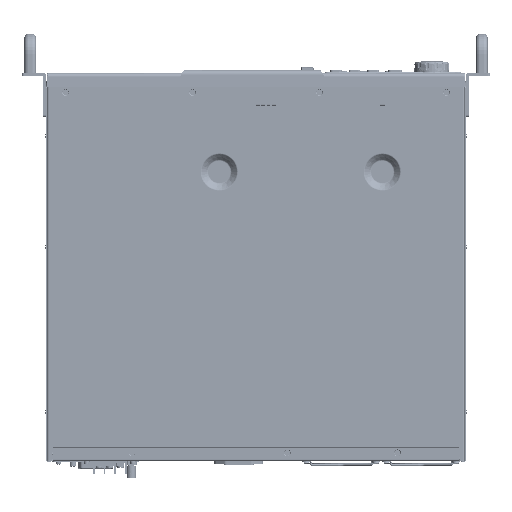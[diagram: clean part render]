
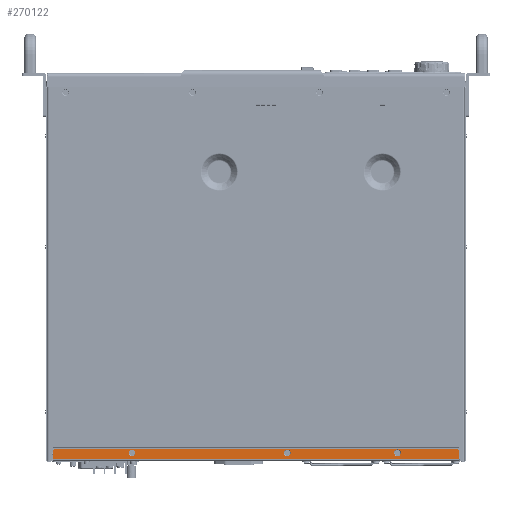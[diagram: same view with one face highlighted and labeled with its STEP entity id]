
A CAD part, front view. The second image highlights one B-rep face of the part: STEP entity #270122.
In plain terms, the highlighted planar face has unit normal (0, -1, 0).
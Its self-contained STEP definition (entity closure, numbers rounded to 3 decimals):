
#266122=DIRECTION('',(-1.,0.,0.));
#266123=VECTOR('',#266122,415.);
#266124=CARTESIAN_POINT('',(207.5,0.6,-398.6));
#266125=LINE('',#266124,#266123);
#266194=CARTESIAN_POINT('',(-127.,0.6,-392.));
#266195=DIRECTION('',(0.,-1.,0.));
#266196=DIRECTION('',(-1.,0.,0.));
#266197=AXIS2_PLACEMENT_3D('',#266194,#266195,#266196);
#266199=CARTESIAN_POINT('',(-127.,0.6,-392.));
#266200=DIRECTION('',(0.,-1.,0.));
#266201=DIRECTION('',(1.,0.,0.));
#266202=AXIS2_PLACEMENT_3D('',#266199,#266200,#266201);
#266204=CARTESIAN_POINT('',(145.,0.6,-392.));
#266205=DIRECTION('',(0.,-1.,0.));
#266206=DIRECTION('',(-1.,0.,0.));
#266207=AXIS2_PLACEMENT_3D('',#266204,#266205,#266206);
#266209=CARTESIAN_POINT('',(145.,0.6,-392.));
#266210=DIRECTION('',(0.,-1.,0.));
#266211=DIRECTION('',(1.,0.,0.));
#266212=AXIS2_PLACEMENT_3D('',#266209,#266210,#266211);
#266214=CARTESIAN_POINT('',(32.,0.6,-392.));
#266215=DIRECTION('',(0.,-1.,0.));
#266216=DIRECTION('',(-1.,0.,0.));
#266217=AXIS2_PLACEMENT_3D('',#266214,#266215,#266216);
#266219=CARTESIAN_POINT('',(32.,0.6,-392.));
#266220=DIRECTION('',(0.,-1.,0.));
#266221=DIRECTION('',(1.,0.,0.));
#266222=AXIS2_PLACEMENT_3D('',#266219,#266220,#266221);
#266224=CARTESIAN_POINT('',(205.5,0.6,-389.8));
#266225=DIRECTION('',(0.,-1.,0.));
#266226=DIRECTION('',(1.,0.,0.));
#266227=AXIS2_PLACEMENT_3D('',#266224,#266225,#266226);
#266229=DIRECTION('',(0.,0.,-1.));
#266230=VECTOR('',#266229,8.8);
#266231=CARTESIAN_POINT('',(207.5,0.6,-389.8));
#266232=LINE('',#266231,#266230);
#266233=DIRECTION('',(0.,0.,1.));
#266234=VECTOR('',#266233,8.8);
#266235=CARTESIAN_POINT('',(-207.5,0.6,-398.6));
#266236=LINE('',#266235,#266234);
#266237=CARTESIAN_POINT('',(-205.5,0.6,-389.8));
#266238=DIRECTION('',(0.,-1.,0.));
#266239=DIRECTION('',(0.,0.,1.));
#266240=AXIS2_PLACEMENT_3D('',#266237,#266238,#266239);
#266242=DIRECTION('',(1.,0.,0.));
#266243=VECTOR('',#266242,411.);
#266244=CARTESIAN_POINT('',(-205.5,0.6,-387.8));
#266245=LINE('',#266244,#266243);
#266630=CARTESIAN_POINT('',(207.5,0.6,-398.6));
#266631=CARTESIAN_POINT('',(-207.5,0.6,-398.6));
#266632=VERTEX_POINT('',#266630);
#266633=VERTEX_POINT('',#266631);
#266938=CARTESIAN_POINT('',(-130.45,0.6,-392.));
#266939=CARTESIAN_POINT('',(-123.55,0.6,-392.));
#266940=VERTEX_POINT('',#266938);
#266941=VERTEX_POINT('',#266939);
#266943=CARTESIAN_POINT('',(141.55,0.6,-392.));
#266945=VERTEX_POINT('',#266943);
#266947=CARTESIAN_POINT('',(148.45,0.6,-392.));
#266949=VERTEX_POINT('',#266947);
#266951=CARTESIAN_POINT('',(28.55,0.6,-392.));
#266953=VERTEX_POINT('',#266951);
#266955=CARTESIAN_POINT('',(35.45,0.6,-392.));
#266957=VERTEX_POINT('',#266955);
#267090=CARTESIAN_POINT('',(207.5,0.6,-389.8));
#267091=VERTEX_POINT('',#267090);
#267092=CARTESIAN_POINT('',(205.5,0.6,-387.8));
#267093=VERTEX_POINT('',#267092);
#267098=CARTESIAN_POINT('',(-205.5,0.6,-387.8));
#267099=VERTEX_POINT('',#267098);
#267100=CARTESIAN_POINT('',(-207.5,0.6,-389.8));
#267101=VERTEX_POINT('',#267100);
#270090=CARTESIAN_POINT('',(110.523,0.6,-398.8));
#270091=DIRECTION('',(0.,1.,0.));
#270092=DIRECTION('',(-1.,0.,0.));
#270093=AXIS2_PLACEMENT_3D('',#270090,#270091,#270092);
#270094=PLANE('',#270093);
#270095=ORIENTED_EDGE('',*,*,#270019,.F.);
#270096=ORIENTED_EDGE('',*,*,#270006,.T.);
#270097=ORIENTED_EDGE('',*,*,#269977,.T.);
#270099=ORIENTED_EDGE('',*,*,#270098,.T.);
#270101=ORIENTED_EDGE('',*,*,#270100,.F.);
#270103=ORIENTED_EDGE('',*,*,#270102,.T.);
#270104=EDGE_LOOP('',(#270095,#270096,#270097,#270099,#270101,#270103));
#270105=FACE_OUTER_BOUND('',#270104,.F.);
#270107=ORIENTED_EDGE('',*,*,#270106,.T.);
#270109=ORIENTED_EDGE('',*,*,#270108,.T.);
#270110=EDGE_LOOP('',(#270107,#270109));
#270111=FACE_BOUND('',#270110,.F.);
#270113=ORIENTED_EDGE('',*,*,#270112,.T.);
#270115=ORIENTED_EDGE('',*,*,#270114,.T.);
#270116=EDGE_LOOP('',(#270113,#270115));
#270117=FACE_BOUND('',#270116,.F.);
#270118=ORIENTED_EDGE('',*,*,#270070,.T.);
#270119=ORIENTED_EDGE('',*,*,#270084,.T.);
#270120=EDGE_LOOP('',(#270118,#270119));
#270121=FACE_BOUND('',#270120,.F.);
#270122=ADVANCED_FACE('',(#270105,#270111,#270117,#270121),#270094,.F.);
#266198=CIRCLE('',#266197,3.45);
#266203=CIRCLE('',#266202,3.45);
#266208=CIRCLE('',#266207,3.45);
#266213=CIRCLE('',#266212,3.45);
#266218=CIRCLE('',#266217,3.45);
#266223=CIRCLE('',#266222,3.45);
#266228=CIRCLE('',#266227,2.);
#266241=CIRCLE('',#266240,2.);
#269977=EDGE_CURVE('',#266632,#266633,#266125,.T.);
#270006=EDGE_CURVE('',#267091,#266632,#266232,.T.);
#270019=EDGE_CURVE('',#267091,#267093,#266228,.T.);
#270070=EDGE_CURVE('',#266940,#266941,#266198,.T.);
#270084=EDGE_CURVE('',#266941,#266940,#266203,.T.);
#270098=EDGE_CURVE('',#266633,#267101,#266236,.T.);
#270100=EDGE_CURVE('',#267099,#267101,#266241,.T.);
#270102=EDGE_CURVE('',#267099,#267093,#266245,.T.);
#270106=EDGE_CURVE('',#266945,#266949,#266208,.T.);
#270108=EDGE_CURVE('',#266949,#266945,#266213,.T.);
#270112=EDGE_CURVE('',#266953,#266957,#266218,.T.);
#270114=EDGE_CURVE('',#266957,#266953,#266223,.T.);
